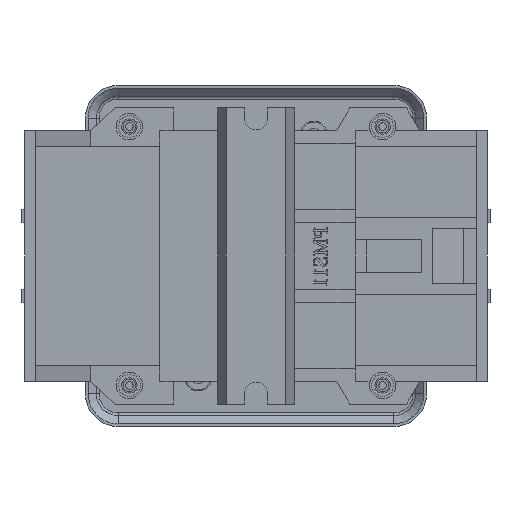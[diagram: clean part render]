
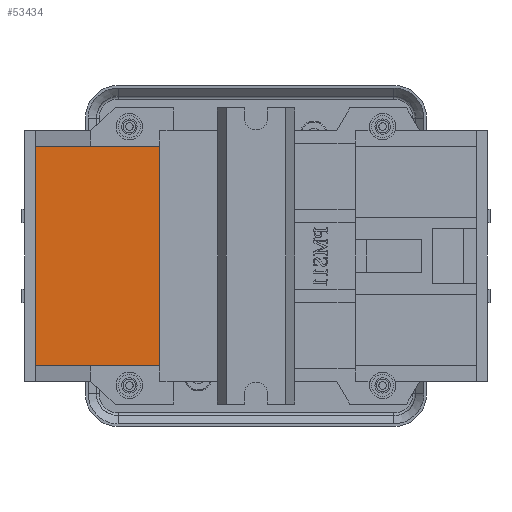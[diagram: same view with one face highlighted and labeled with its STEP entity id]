
A CAD part, front view. The second image highlights one B-rep face of the part: STEP entity #53434.
In plain terms, the highlighted planar face has unit normal (0, -1, 0).
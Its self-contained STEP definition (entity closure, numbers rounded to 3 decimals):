
#4124 = VERTEX_POINT ( 'NONE', #45397 ) ;
#4778 = AXIS2_PLACEMENT_3D ( 'NONE', #31735, #5485, #36135 ) ;
#5357 = EDGE_LOOP ( 'NONE', ( #28701, #17777, #32072, #12541 ) ) ;
#5485 = DIRECTION ( 'NONE',  ( 0., -1., 0. ) ) ;
#6203 = VECTOR ( 'NONE', #16562, 1000. ) ;
#7601 = LINE ( 'NONE', #56048, #6203 ) ;
#7859 = EDGE_CURVE ( 'NONE', #42203, #43595, #19538, .T. ) ;
#10427 = CARTESIAN_POINT ( 'NONE',  ( -40., -21., 19.95 ) ) ;
#11013 = CARTESIAN_POINT ( 'NONE',  ( -17.5, -21., 19.95 ) ) ;
#12541 = ORIENTED_EDGE ( 'NONE', *, *, #20995, .T. ) ;
#13308 = DIRECTION ( 'NONE',  ( 0., 0., -1. ) ) ;
#13334 = DIRECTION ( 'NONE',  ( -1., 0., 0. ) ) ;
#13837 = CARTESIAN_POINT ( 'NONE',  ( -17.5, -21., -19.95 ) ) ;
#16562 = DIRECTION ( 'NONE',  ( 1., 0., 0. ) ) ;
#17777 = ORIENTED_EDGE ( 'NONE', *, *, #23932, .F. ) ;
#17917 = VECTOR ( 'NONE', #53508, 1000. ) ;
#18006 = EDGE_CURVE ( 'NONE', #4124, #36036, #7601, .T. ) ;
#18401 = CARTESIAN_POINT ( 'NONE',  ( -17.5, -21., 19.95 ) ) ;
#19074 = FACE_OUTER_BOUND ( 'NONE', #5357, .T. ) ;
#19303 = LINE ( 'NONE', #18401, #17917 ) ;
#19538 = LINE ( 'NONE', #30405, #41487 ) ;
#20995 = EDGE_CURVE ( 'NONE', #43595, #4124, #24461, .T. ) ;
#23062 = VECTOR ( 'NONE', #13308, 1000. ) ;
#23932 = EDGE_CURVE ( 'NONE', #42203, #36036, #19303, .T. ) ;
#24461 = LINE ( 'NONE', #48576, #23062 ) ;
#28701 = ORIENTED_EDGE ( 'NONE', *, *, #18006, .T. ) ;
#30405 = CARTESIAN_POINT ( 'NONE',  ( -17.5, -21., 19.95 ) ) ;
#31735 = CARTESIAN_POINT ( 'NONE',  ( 0., -21., 0. ) ) ;
#32072 = ORIENTED_EDGE ( 'NONE', *, *, #7859, .T. ) ;
#36036 = VERTEX_POINT ( 'NONE', #13837 ) ;
#36135 = DIRECTION ( 'NONE',  ( 0., 0., -1. ) ) ;
#41487 = VECTOR ( 'NONE', #13334, 1000. ) ;
#42203 = VERTEX_POINT ( 'NONE', #11013 ) ;
#43595 = VERTEX_POINT ( 'NONE', #10427 ) ;
#45397 = CARTESIAN_POINT ( 'NONE',  ( -40., -21., -19.95 ) ) ;
#48576 = CARTESIAN_POINT ( 'NONE',  ( -40., -21., 19.95 ) ) ;
#53434 = ADVANCED_FACE ( 'NONE', ( #19074 ), #53605, .T. ) ;
#53508 = DIRECTION ( 'NONE',  ( 0., 0., -1. ) ) ;
#53605 = PLANE ( 'NONE',  #4778 ) ;
#56048 = CARTESIAN_POINT ( 'NONE',  ( -40., -21., -19.95 ) ) ;
